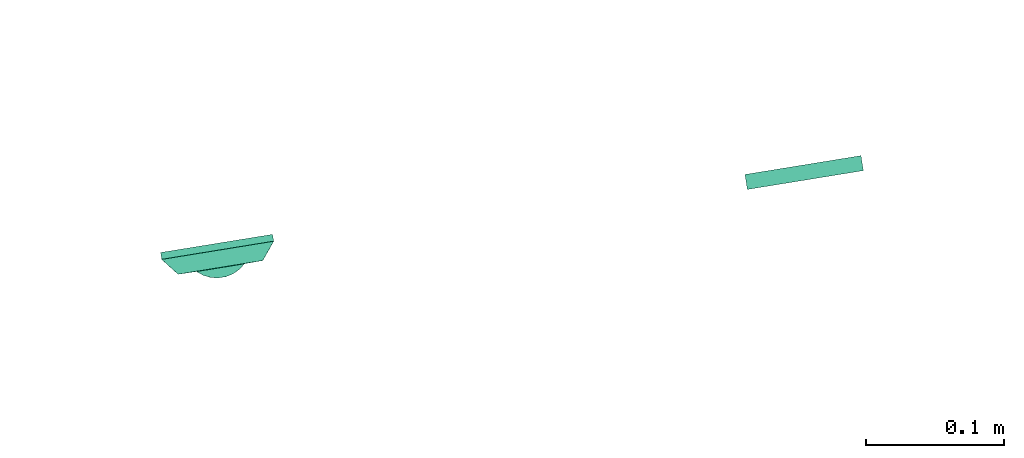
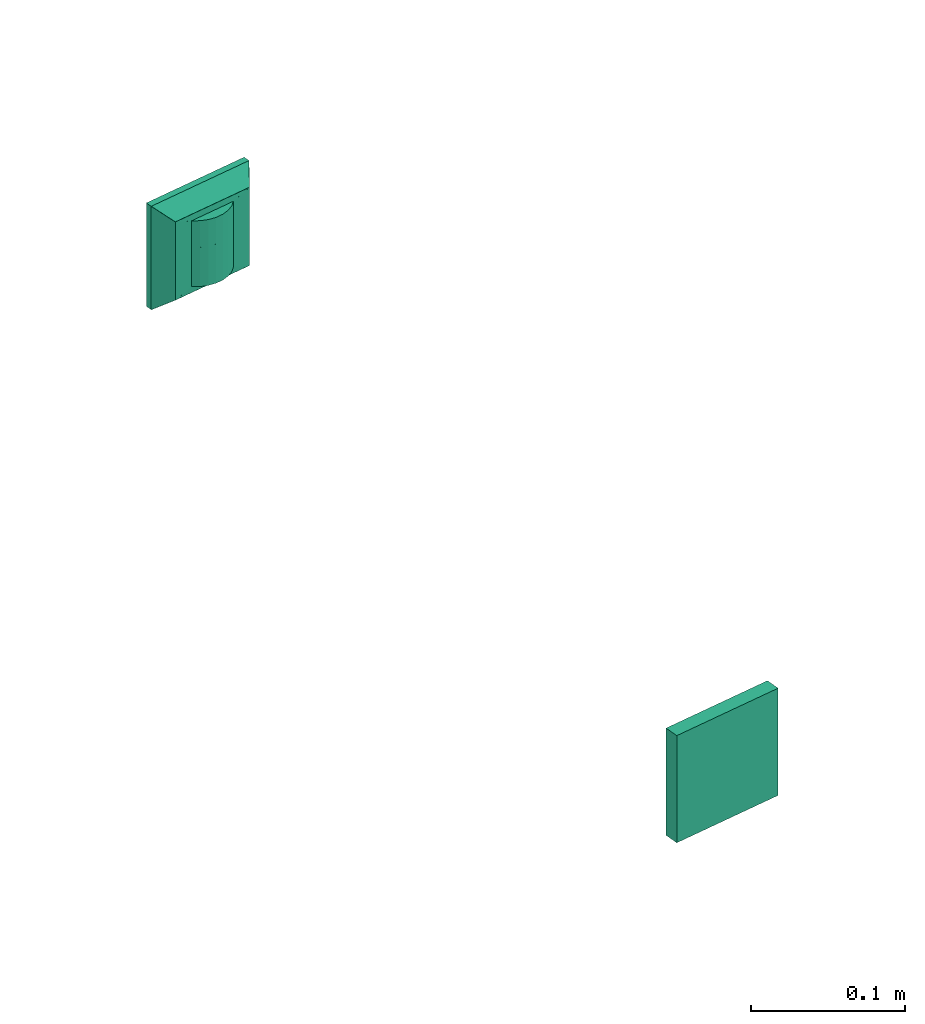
# One storey, part 6 of 20: 2 flow terminals.
"""IFC2X3 building model written with IfcOpenShell, lengths in millimetres."""

from ifc_helpers import new_model, entity, si_unit, converted_unit, derived_unit, direction, frame, frame_2d, origin, origin_with_axes, origin_2d_with_axis, place, context, subcontext, project, spatial, polyline, circle_curve, parameter, trimmed, segment, composite_curve, rectangle, outline, extrude, source, transform, mapped, material, type_object, element, save


model = new_model("IFC2X3")

# Units and contexts
model_context = context("Model", 3, precision=0.01, world=origin(), true_north=direction((6.12323399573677e-17, 1.0)))
plan_context = context("Plan", 3, precision=1e-05, world=origin_with_axes())
body_context = subcontext(model_context, "Body", "Model", "MODEL_VIEW")
ifc_project = project(units=[converted_unit("PLANEANGLEUNIT", "DEGREE", entity("IfcPositiveLengthMeasure", 0.0174532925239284), si_unit("PLANEANGLEUNIT", "RADIAN"), dimensions=[0, 0, 0, 0, 0, 0, 0]), si_unit("AREAUNIT", "SQUARE_METRE"), si_unit("LENGTHUNIT", "METRE", prefix="MILLI"), si_unit("MASSUNIT", "GRAM", prefix="KILO"), si_unit("POWERUNIT", "WATT"), si_unit("PRESSUREUNIT", "PASCAL", prefix="KILO"), si_unit("FORCEUNIT", "NEWTON", prefix="KILO"), si_unit("ELECTRICVOLTAGEUNIT", "VOLT"), si_unit("ELECTRICCURRENTUNIT", "AMPERE"), si_unit("THERMODYNAMICTEMPERATUREUNIT", "DEGREE_CELSIUS"), si_unit("TIMEUNIT", "SECOND"), si_unit("VOLUMEUNIT", "CUBIC_METRE"), derived_unit("LINEARVELOCITYUNIT", [(si_unit("LENGTHUNIT", "METRE"), 1), (si_unit("TIMEUNIT", "SECOND"), -1)]), derived_unit("VOLUMETRICFLOWRATEUNIT", [(si_unit("VOLUMEUNIT", "CUBIC_METRE"), 1), (si_unit("TIMEUNIT", "SECOND"), -1)]), derived_unit("THERMALTRANSMITTANCEUNIT", [(si_unit("POWERUNIT", "WATT"), 1), (si_unit("THERMODYNAMICTEMPERATUREUNIT", "KELVIN"), -1), (si_unit("AREAUNIT", "SQUARE_METRE"), -1)]), derived_unit("SOUNDPRESSUREUNIT", [(si_unit("PRESSUREUNIT", "PASCAL"), 1)])], contexts=[model_context, plan_context])

# Site, building, storey
site_placement = place(None, frame((-0.219946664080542, 0.12226179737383, 0.0), z_axis=(0.0, 0.0, 1.0), x_axis=(-0.160236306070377, 0.987078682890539, 0.0)))
site = spatial("IfcSite", under=ifc_project, at=site_placement, Name="Default", CompositionType="ELEMENT")
building_placement = place(site_placement, origin_with_axes())
building = spatial("IfcBuilding", under=site, at=building_placement, CompositionType="ELEMENT")
storey_placement = place(building_placement, frame((0.0, 0.0, 50999.9999999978), z_axis=(0.0, 0.0, 1.0), x_axis=(1.0, 0.0, 0.0)))
storey = spatial("IfcBuildingStorey", under=building, at=storey_placement, Name="Nivå D", CompositionType="ELEMENT", Elevation=50999.9999999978)

# Flow terminals
ifc_material = material(Name="<Unnamed>")
electric_appliance_type_1 = type_object("IfcElectricApplianceType", Name="BUS Tilstede på vegg +1100 180° r=8m PH:Move detector 3", PredefinedType="NOTDEFINED", material=ifc_material)
shared_shape_1 = source(origin(), body_context, "Body", "SweptSolid", [
    extrude(outline(polyline([(-31.0, -8.00390529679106), (31.0, -8.00390529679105), (41.0, 8.00390529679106), (-41.0, 8.00390529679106), (-31.0, -8.00390529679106)])), frame((0.0, 11.3124695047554, -36.0780868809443), z_axis=(0.0, -0.624695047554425, 0.78086880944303), x_axis=(-1.0, 0.0, 0.0)), (0.0, 0.0, 1.0), 0.2),
    extrude(outline(polyline([(-31.0, -8.00390529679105), (31.0, -8.00390529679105), (41.0, 8.00390529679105), (-41.0, 8.00390529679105), (-31.0, -8.00390529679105)])), frame((0.0, 11.1875304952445, 35.9219131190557), z_axis=(0.0, 0.624695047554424, 0.78086880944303), x_axis=(-1.0, 0.0, 0.0)), (0.0, 0.0, 1.0), 0.2),
    extrude(outline(polyline([(-28.510558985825, -30.532122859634), (-9.63597289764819, -30.532122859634), (23.2124295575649, 22.0509776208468), (14.9341023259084, 39.0132680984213), (-28.510558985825, -30.532122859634)])), frame((35.9219131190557, 11.1875304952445, 0.0), z_axis=(0.78086880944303, 0.624695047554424, 0.0), x_axis=(-0.529812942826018, 0.662266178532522, 0.529812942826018)), (0.0, 0.0, 1.0), 0.2),
    extrude(outline(polyline([(-28.510558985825, -30.532122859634), (-9.63597289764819, -30.532122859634), (23.2124295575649, 22.0509776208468), (14.9341023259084, 39.0132680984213), (-28.510558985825, -30.532122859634)])), frame((-36.0780868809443, 11.3124695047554, 0.0), z_axis=(0.78086880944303, -0.624695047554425, 0.0), x_axis=(0.529812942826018, 0.662266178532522, 0.529812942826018)), (0.0, 0.0, 1.0), 0.2),
    extrude(outline(polyline([(-17.1288890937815, -26.6829565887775), (-2.89807549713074, -26.6829565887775), (15.372137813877, 22.001736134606), (4.65482677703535, 31.364177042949), (-17.1288890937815, -26.6829565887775)])), frame((-24.3375012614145, 17.4888436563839, 0.0), z_axis=(-0.0133350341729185, 0.999911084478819, 0.0), x_axis=(0.93616084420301, 0.0124848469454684, -0.351350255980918)), (0.0, 0.0, 1.0), 0.200000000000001),
    extrude(outline(polyline([(-31.0, -6.6617575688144), (31.0, -6.6617575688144), (26.0, 6.66175756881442), (-26.0, 6.66175756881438), (-31.0, -6.6617575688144)])), frame((24.3375012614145, 17.488843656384, 0.0), z_axis=(0.0133350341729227, 0.999911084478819, 0.0), x_axis=(0.0, 0.0, -1.0)), (0.0, 0.0, 1.0), 0.200000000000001),
    extrude(outline(polyline([(15.6696573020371, -8.55685290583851), (29.900470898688, -8.5568529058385), (-28.1415014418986, 13.2406113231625), (-17.4286267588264, 3.87309448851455), (15.6696573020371, -8.55685290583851)])), frame((0.0, 17.4888978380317, -28.4964488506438), z_axis=(0.0, 0.999369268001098, -0.035511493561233), x_axis=(0.93616084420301, -0.0124848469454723, -0.351350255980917)), (0.0, 0.0, 1.0), 0.199999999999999),
    extrude(outline(polyline([(-17.6776695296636, -2.50157782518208), (17.6776695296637, -2.50157782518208), (31.0, 2.50157782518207), (-31.0, 2.50157782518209), (-17.6776695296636, -2.50157782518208)])), frame((0.0, 17.4888978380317, 28.4964488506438), z_axis=(0.0, 0.999369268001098, 0.0355114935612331), x_axis=(-1.0, 0.0, 0.0)), (0.0, 0.0, 1.0), 0.199999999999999),
    extrude(rectangle(XDim=0.199999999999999, YDim=61.9999999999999, at=frame_2d((1.06165076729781e-15, 0.0), x_axis=(1.0, 0.0))), frame((0.0, 17.5, -31.0), z_axis=(0.0, 0.0, 1.0), x_axis=(0.0, 1.0, 0.0)), (0.0, 0.0, 1.0), 61.9999999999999),
    extrude(outline(composite_curve([segment(trimmed(circle_curve(frame_2d((-12.3, 12.2999999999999), x_axis=(1.0, 0.0)), 24.9999999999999), [parameter(270.0)], [parameter(0.0)], True, "PARAMETER"), True, "CONTINUOUS"), segment(polyline([(12.7, 12.2999999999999), (11.9, 12.2999999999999)]), True, "CONTINUOUS"), segment(trimmed(circle_curve(frame_2d((-12.3, 12.2999999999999), x_axis=(0.0, -1.0)), 24.1999999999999), [parameter(0.0)], [parameter(90.0000000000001)], True, "PARAMETER"), False, "CONTINUOUS"), segment(polyline([(-12.3, -11.9), (-12.3, -12.7)]), True, "CONTINUOUS")], self_intersect=False)), frame((0.0, 17.4048268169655, -21.0), z_axis=(0.0, 0.0, 1.0), x_axis=(-0.707106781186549, 0.707106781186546, 0.0)), (0.0, 0.0, 1.0), 26.0),
    extrude(outline(composite_curve([segment(trimmed(circle_curve(frame_2d((-12.3, 12.2999999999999), x_axis=(1.0, 0.0)), 24.9999999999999), [parameter(270.0)], [parameter(0.0)], True, "PARAMETER"), True, "CONTINUOUS"), segment(polyline([(12.7, 12.2999999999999), (11.9, 12.2999999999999)]), True, "CONTINUOUS"), segment(trimmed(circle_curve(frame_2d((-12.3, 12.2999999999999), x_axis=(0.0, -1.0)), 24.2), [parameter(0.0)], [parameter(90.0000000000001)], True, "PARAMETER"), False, "CONTINUOUS"), segment(polyline([(-12.3, -11.9), (-12.3, -12.7)]), True, "CONTINUOUS")], self_intersect=False)), frame((0.0, 17.394826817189, -26.0), z_axis=(0.0, 0.0, 1.0), x_axis=(-0.707106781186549, 0.707106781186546, 0.0)), (0.0, 0.0, 1.0), 51.9999999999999),
    extrude(outline(composite_curve([segment(trimmed(circle_curve(frame_2d((-12.4999999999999, 12.5), x_axis=(1.0, 0.0)), 24.9999999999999), [parameter(270.0)], [parameter(0.0)], True, "PARAMETER"), True, "CONTINUOUS"), segment(polyline([(12.5000000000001, 12.5), (-12.4999999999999, -12.5)]), True, "CONTINUOUS")], self_intersect=False)), frame((0.0, 17.6776695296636, -26.1), z_axis=(0.0, 0.0, 1.0), x_axis=(-0.707106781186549, 0.707106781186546, 0.0)), (0.0, 0.0, 1.0), 0.200000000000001),
    extrude(outline(composite_curve([segment(trimmed(circle_curve(frame_2d((-12.4999999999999, 12.5), x_axis=(1.0, 0.0)), 24.9999999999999), [parameter(270.0)], [parameter(0.0)], True, "PARAMETER"), True, "CONTINUOUS"), segment(polyline([(12.5000000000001, 12.5), (-12.4999999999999, -12.5)]), True, "CONTINUOUS")], self_intersect=False)), frame((0.0, 17.6776695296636, 25.9), z_axis=(0.0, 0.0, 1.0), x_axis=(-0.707106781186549, 0.707106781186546, 0.0)), (0.0, 0.0, 1.0), 0.200000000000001),
    extrude(rectangle(XDim=81.9999999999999, YDim=4.99999999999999, at=origin_2d_with_axis()), frame((0.0, 2.5, -41.0)), (0.0, 0.0, 1.0), 81.9999999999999),
])
flow_terminal_1_placement = place(storey_placement, frame((779792.619644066, -590369.638231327, 1100.0), z_axis=(0.0, 0.0, 1.0), x_axis=(0.0, 1.0, 0.0)))
element("IfcFlowTerminal", 1, at=flow_terminal_1_placement, inside=storey, type_object=electric_appliance_type_1, material=ifc_material, Name="BUS Tilstede på vegg +1100 180° r=8m PH:Move detector 3", ObjectType="BUS Tilstede på vegg +1100 180° r=8m PH:Move detector 3", context=body_context, shape_type="MappedRepresentation", body=[
    mapped(shared_shape_1, transform((0.0, 0.0, 0.0), scale=1.0)),
])
electric_appliance_type_2 = type_object("IfcElectricApplianceType", Name="BUS Snorbryter:Binary receiver", PredefinedType="NOTDEFINED", material=ifc_material)
shared_shape_2 = source(origin(), body_context, "Body", "SweptSolid", [
    extrude(rectangle(XDim=11.0, YDim=84.9999999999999, at=origin_2d_with_axis()), frame((0.0, 5.49999999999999, -42.5), z_axis=(0.0, 0.0, 1.0), x_axis=(0.0, -1.0, 0.0)), (0.0, 0.0, 1.0), 84.9999999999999),
])
flow_terminal_2_placement = place(storey_placement, frame((779780.619644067, -590797.056423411, 500.0), z_axis=(0.0, 0.0, 1.0), x_axis=(0.0, 1.0, 0.0)))
element("IfcFlowTerminal", 2, at=flow_terminal_2_placement, inside=storey, type_object=electric_appliance_type_2, material=ifc_material, Name="BUS Snorbryter:Binary receiver", ObjectType="BUS Snorbryter:Binary receiver", context=body_context, shape_type="MappedRepresentation", body=[
    mapped(shared_shape_2, transform((0.0, 0.0, 0.0), scale=1.0)),
])

save(model, "model.ifc")
